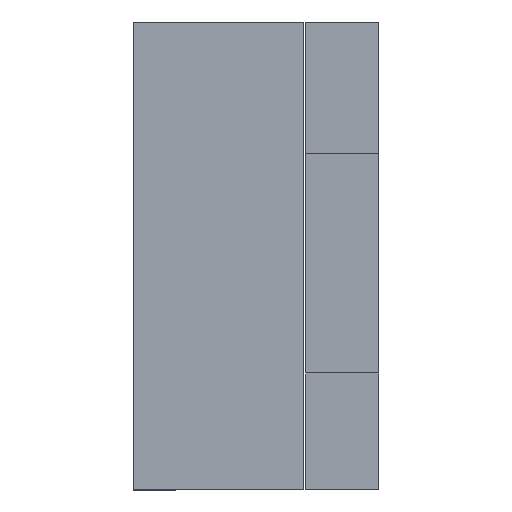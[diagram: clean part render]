
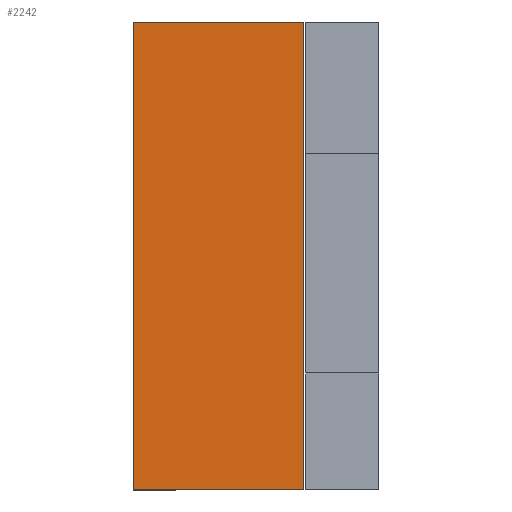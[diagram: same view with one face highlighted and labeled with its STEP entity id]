
A CAD part, left-side view. The second image highlights one B-rep face of the part: STEP entity #2242.
In plain terms, the highlighted planar face has unit normal (-1, 0, 0) as drawn and (1, 0, 0) by its records, which use the part's own axes.
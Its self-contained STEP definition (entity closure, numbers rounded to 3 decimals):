
#268=FACE_OUTER_BOUND('',#390,.T.);
#390=EDGE_LOOP('',(#1995,#1996,#1997,#1998));
#642=LINE('',#3737,#918);
#660=LINE('',#3778,#936);
#663=LINE('',#3784,#939);
#666=LINE('',#3789,#942);
#918=VECTOR('',#3101,10.);
#936=VECTOR('',#3145,10.);
#939=VECTOR('',#3150,10.);
#942=VECTOR('',#3155,10.);
#1123=VERTEX_POINT('',#3734);
#1124=VERTEX_POINT('',#3736);
#1134=VERTEX_POINT('',#3777);
#1136=VERTEX_POINT('',#3783);
#1402=EDGE_CURVE('',#1123,#1124,#642,.T.);
#1422=EDGE_CURVE('',#1124,#1134,#660,.T.);
#1425=EDGE_CURVE('',#1134,#1136,#663,.T.);
#1428=EDGE_CURVE('',#1136,#1123,#666,.T.);
#1995=ORIENTED_EDGE('',*,*,#1428,.F.);
#1996=ORIENTED_EDGE('',*,*,#1425,.F.);
#1997=ORIENTED_EDGE('',*,*,#1422,.F.);
#1998=ORIENTED_EDGE('',*,*,#1402,.F.);
#2123=PLANE('',#2577);
#2242=ADVANCED_FACE('',(#268),#2123,.F.);
#2577=AXIS2_PLACEMENT_3D('',#3791,#3157,#3158);
#3101=DIRECTION('',(0.,0.,1.));
#3145=DIRECTION('',(0.,1.,0.));
#3150=DIRECTION('',(0.,0.,-1.));
#3155=DIRECTION('',(0.,-1.,0.));
#3157=DIRECTION('center_axis',(-1.,0.,0.));
#3158=DIRECTION('ref_axis',(0.,0.,1.));
#3734=CARTESIAN_POINT('',(388.,0.,-240.));
#3736=CARTESIAN_POINT('',(388.,0.,240.));
#3737=CARTESIAN_POINT('',(388.,0.,-240.));
#3777=CARTESIAN_POINT('',(388.,175.,240.));
#3778=CARTESIAN_POINT('',(388.,0.,240.));
#3783=CARTESIAN_POINT('',(388.,175.,-240.));
#3784=CARTESIAN_POINT('',(388.,175.,240.));
#3789=CARTESIAN_POINT('',(388.,175.,-240.));
#3791=CARTESIAN_POINT('Origin',(388.,87.5,0.));
